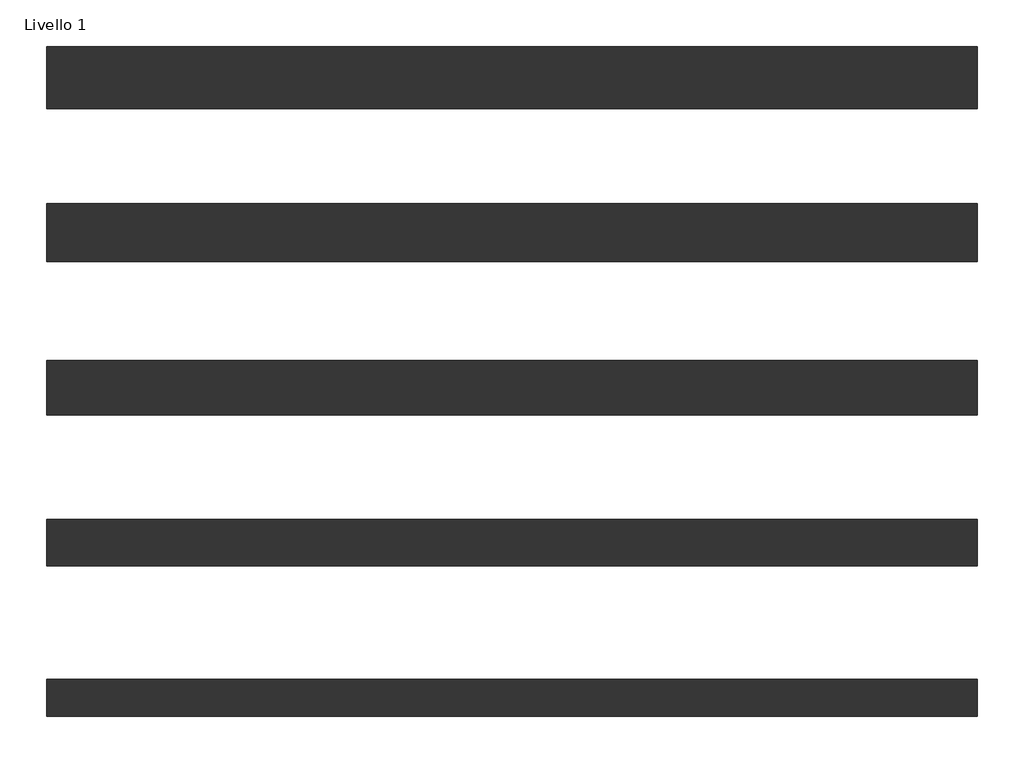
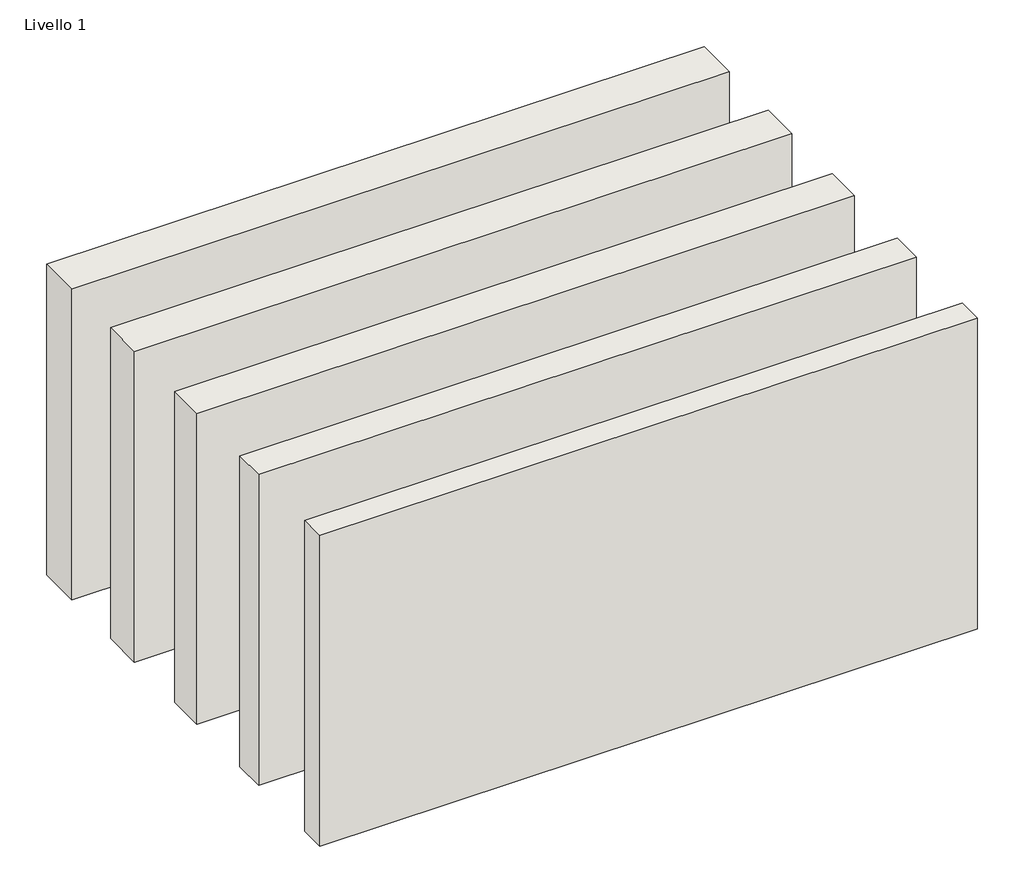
# One storey: 5 walls.
"""IFC4 building model written with IfcOpenShell, lengths in millimetres."""

from ifc_helpers import new_model, si_unit, origin, origin_with_axes, place, context, project, spatial, polyline, outline, extrude, element, save

model = new_model("IFC4")

# Units and contexts
model_context = context("Model", 3, world=origin())
ifc_project = project(units=[si_unit("LENGTHUNIT", "METRE", prefix="MILLI")], contexts=[model_context])

# Site, building, storey
site = spatial("IfcSite", under=ifc_project)
building = spatial("IfcBuilding", under=site)
storey = spatial("IfcBuildingStorey", under=building, Name="Livello 1", Elevation=0.0)

# Walls
placement = place(None, origin())
element("IfcWall", 1, ObjectType="GASBETON Sysmic sp. 400 mm", at=placement, inside=storey, context=model_context, shape_type="SweptSolid", body=[
    extrude(outline(polyline([(2922.6532392, 7612.5170164), (-3077.3467608, 7612.5170164), (-3077.3467608, 8012.5170164), (2922.6532392, 8012.5170164), (2922.6532392, 7612.5170164)])), origin_with_axes(), (0.0, 0.0, 1.0), 3000.0),
])
element("IfcWall", 2, ObjectType="GASBETON Sysmic sp. 375 mm", at=placement, inside=storey, context=model_context, shape_type="SweptSolid", body=[
    extrude(outline(polyline([(2922.6532392, 6625.0170164), (-3077.3467608, 6625.0170164), (-3077.3467608, 7000.0170164), (2922.6532392, 7000.0170164), (2922.6532392, 6625.0170164)])), origin_with_axes(), (0.0, 0.0, 1.0), 3000.0),
])
element("IfcWall", 3, ObjectType="GASBETON Sysmic sp. 350 mm", at=placement, inside=storey, context=model_context, shape_type="SweptSolid", body=[
    extrude(outline(polyline([(2922.6532392, 5637.5170164), (-3077.3467608, 5637.5170164), (-3077.3467608, 5987.5170164), (2922.6532392, 5987.5170164), (2922.6532392, 5637.5170164)])), origin_with_axes(), (0.0, 0.0, 1.0), 3000.0),
])
element("IfcWall", 4, ObjectType="GASBETON Sysmic sp. 300 mm", at=placement, inside=storey, context=model_context, shape_type="SweptSolid", body=[
    extrude(outline(polyline([(2922.6532392, 4662.5170164), (-3077.3467608, 4662.5170164), (-3077.3467608, 4962.5170164), (2922.6532392, 4962.5170164), (2922.6532392, 4662.5170164)])), origin_with_axes(), (0.0, 0.0, 1.0), 3000.0),
])
element("IfcWall", 5, ObjectType="GASBETON Sysmic sp. 240 mm", at=placement, inside=storey, context=model_context, shape_type="SweptSolid", body=[
    extrude(outline(polyline([(2922.6532392, 3692.5170164), (-3077.3467608, 3692.5170164), (-3077.3467608, 3932.5170164), (2922.6532392, 3932.5170164), (2922.6532392, 3692.5170164)])), origin_with_axes(), (0.0, 0.0, 1.0), 3000.0),
])

save(model, "model.ifc")
